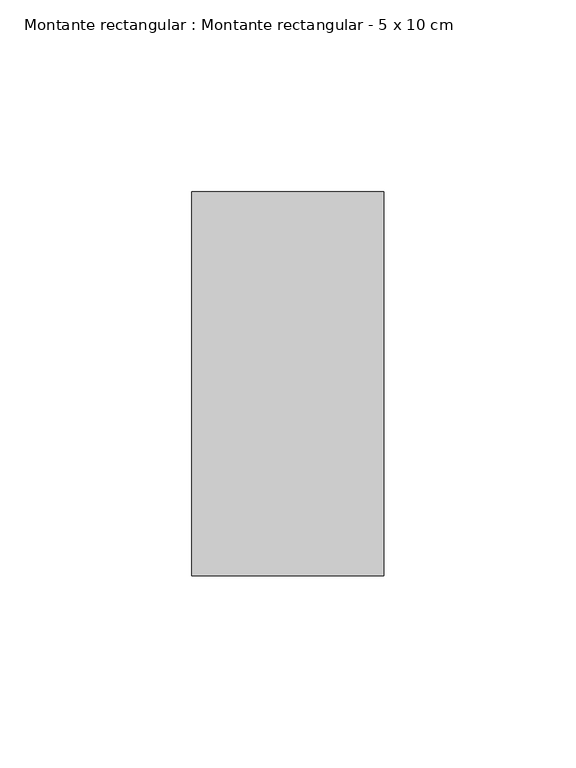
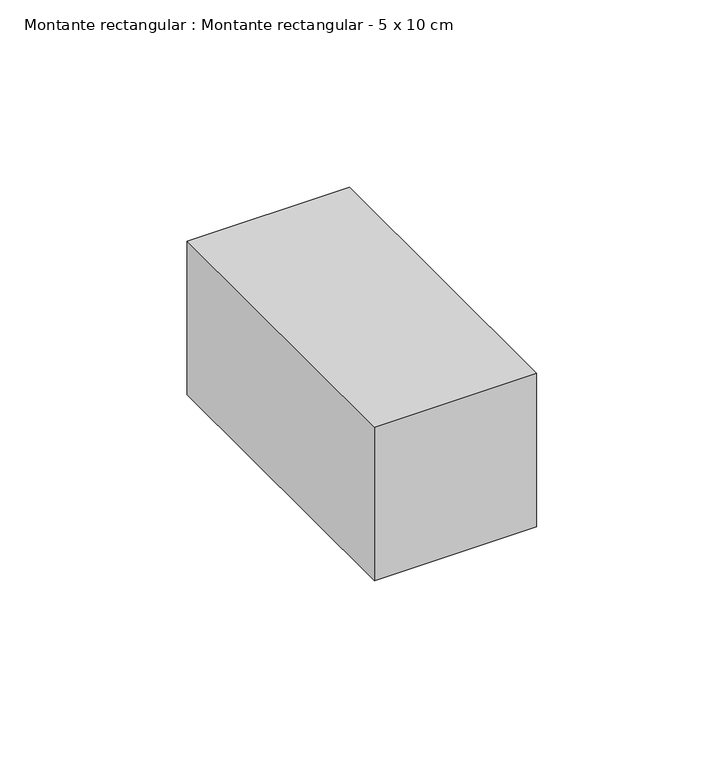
"""IFC4 building model written with IfcOpenShell, lengths in millimetres: member geometry, Montante rectangular : Montante rectangular - 5 x 10 cm."""

from ifc_helpers import new_model, si_unit, frame, origin, place, context, project, spatial, polyline, outline, extrude, source, transform, mapped, element, save


def montante_rectangular_montante_rectangular_5_x_10_cm_21e9b40b(model_context):
    return source(origin(), model_context, "Body", "SweptSolid", [
        extrude(outline(polyline([(0.0, -50.0), (-50.0, -50.0), (-50.0, 50.0), (0.0, 50.0), (0.0, -50.0)])), frame((0.0, 0.0, -50.0), z_axis=(0.0, 0.0, 1.0), x_axis=(1.0, 0.0, 0.0)), (0.0, 0.0, 1.0), 50.0),
    ])


if __name__ == "__main__":
    model = new_model("IFC4")
    model_context = context("Model", 3, world=origin())
    ifc_project = project(units=[si_unit("LENGTHUNIT", "METRE", prefix="MILLI")], contexts=[model_context])
    site = spatial("IfcSite", under=ifc_project)
    building = spatial("IfcBuilding", under=site)
    placement = place(None, origin())
    montante_rectangular_montante_rectangular_5_x_10_cm_shape = montante_rectangular_montante_rectangular_5_x_10_cm_21e9b40b(model_context)
    element("IfcMember", 1, ObjectType="Montante rectangular : Montante rectangular - 5 x 10 cm", at=placement, inside=building, context=model_context, shape_type="MappedRepresentation", body=[
        mapped(montante_rectangular_montante_rectangular_5_x_10_cm_shape, transform((0.0, 0.0, 0.0), x_axis=(1.0, 0.0, 0.0), y_axis=(0.0, 1.0, 0.0), z_axis=(0.0, 0.0, 1.0))),
    ])
    save(model, "model.ifc")
